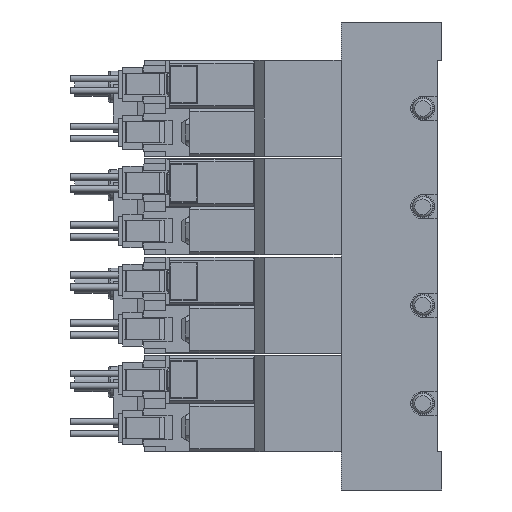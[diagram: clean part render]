
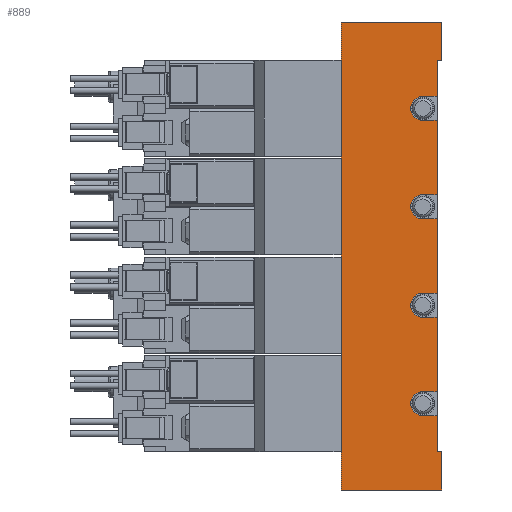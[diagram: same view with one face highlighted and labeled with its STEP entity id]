
A CAD part, left-side view. The second image highlights one B-rep face of the part: STEP entity #889.
In plain terms, the highlighted planar face has unit normal (-1, 0, 0) as drawn and (1, 0, 0) by its records, which use the part's own axes.
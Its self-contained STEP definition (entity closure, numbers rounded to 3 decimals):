
#889=ADVANCED_FACE('',(#1938),#1939,.F.);
#1938=FACE_OUTER_BOUND('',#3037,.T.);
#1939=PLANE('',#3038);
#3037=EDGE_LOOP('',(#6727,#6728,#6729,#6730,#6731,#6732,#6733,#6734,#6735,#6736,#6737,#6738,#6739,#6740,#6741,#6742,#6743,#6744,#6745,#6746,#6747,#6748,#6749,#6750));
#3038=AXIS2_PLACEMENT_3D('',#6751,#6752,#6753);
#6727=ORIENTED_EDGE('',*,*,#8018,.T.);
#6728=ORIENTED_EDGE('',*,*,#8051,.T.);
#6729=ORIENTED_EDGE('',*,*,#8057,.F.);
#6730=ORIENTED_EDGE('',*,*,#8096,.F.);
#6731=ORIENTED_EDGE('',*,*,#8097,.T.);
#6732=ORIENTED_EDGE('',*,*,#8098,.T.);
#6733=ORIENTED_EDGE('',*,*,#8008,.T.);
#6734=ORIENTED_EDGE('',*,*,#8099,.F.);
#6735=ORIENTED_EDGE('',*,*,#8088,.F.);
#6736=ORIENTED_EDGE('',*,*,#8073,.F.);
#6737=ORIENTED_EDGE('',*,*,#8004,.T.);
#6738=ORIENTED_EDGE('',*,*,#8082,.F.);
#6739=ORIENTED_EDGE('',*,*,#8093,.F.);
#6740=ORIENTED_EDGE('',*,*,#8100,.F.);
#6741=ORIENTED_EDGE('',*,*,#8000,.T.);
#6742=ORIENTED_EDGE('',*,*,#7970,.F.);
#6743=ORIENTED_EDGE('',*,*,#8101,.F.);
#6744=ORIENTED_EDGE('',*,*,#8102,.F.);
#6745=ORIENTED_EDGE('',*,*,#7997,.T.);
#6746=ORIENTED_EDGE('',*,*,#8036,.F.);
#6747=ORIENTED_EDGE('',*,*,#8103,.F.);
#6748=ORIENTED_EDGE('',*,*,#8032,.F.);
#6749=ORIENTED_EDGE('',*,*,#7993,.T.);
#6750=ORIENTED_EDGE('',*,*,#7990,.T.);
#6751=CARTESIAN_POINT('',(17.5,1.0,48.75));
#6752=DIRECTION('',(-1.0,0.0,0.0));
#6753=DIRECTION('',(0.0,0.0,1.0));
#7970=EDGE_CURVE('',#9855,#9856,#9857,.T.);
#7990=EDGE_CURVE('',#9887,#9893,#9895,.T.);
#7993=EDGE_CURVE('',#9900,#9887,#9901,.T.);
#7997=EDGE_CURVE('',#9908,#9906,#9909,.T.);
#8000=EDGE_CURVE('',#9913,#9856,#9914,.T.);
#8004=EDGE_CURVE('',#9921,#9919,#9922,.T.);
#8008=EDGE_CURVE('',#9929,#9927,#9930,.T.);
#8018=EDGE_CURVE('',#9893,#9945,#9946,.T.);
#8032=EDGE_CURVE('',#9900,#9971,#9972,.T.);
#8036=EDGE_CURVE('',#9978,#9906,#9979,.T.);
#8051=EDGE_CURVE('',#9945,#10004,#10005,.T.);
#8057=EDGE_CURVE('',#10012,#10004,#10014,.T.);
#8073=EDGE_CURVE('',#9921,#10043,#10044,.T.);
#8082=EDGE_CURVE('',#10058,#9919,#10059,.T.);
#8088=EDGE_CURVE('',#10043,#10065,#10066,.T.);
#8093=EDGE_CURVE('',#10072,#10058,#10074,.T.);
#8096=EDGE_CURVE('',#10078,#10012,#10079,.T.);
#8097=EDGE_CURVE('',#10078,#10080,#10081,.T.);
#8098=EDGE_CURVE('',#10080,#9929,#10082,.T.);
#8099=EDGE_CURVE('',#10065,#9927,#10083,.T.);
#8100=EDGE_CURVE('',#9913,#10072,#10084,.T.);
#8101=EDGE_CURVE('',#10085,#9855,#10086,.T.);
#8102=EDGE_CURVE('',#9908,#10085,#10087,.T.);
#8103=EDGE_CURVE('',#9971,#9978,#10088,.T.);
#9855=VERTEX_POINT('',#12941);
#9856=VERTEX_POINT('',#12942);
#9857=LINE('',#12943,#12944);
#9887=VERTEX_POINT('',#12978);
#9893=VERTEX_POINT('',#12987);
#9895=LINE('',#12990,#12991);
#9900=VERTEX_POINT('',#12996);
#9901=LINE('',#12997,#12998);
#9906=VERTEX_POINT('',#13005);
#9908=VERTEX_POINT('',#13008);
#9909=LINE('',#13009,#13010);
#9913=VERTEX_POINT('',#13016);
#9914=LINE('',#13017,#13018);
#9919=VERTEX_POINT('',#13025);
#9921=VERTEX_POINT('',#13028);
#9922=LINE('',#13029,#13030);
#9927=VERTEX_POINT('',#13037);
#9929=VERTEX_POINT('',#13040);
#9930=LINE('',#13041,#13042);
#9945=VERTEX_POINT('',#13060);
#9946=LINE('',#13061,#13062);
#9971=VERTEX_POINT('',#13091);
#9972=LINE('',#13092,#13093);
#9978=VERTEX_POINT('',#13102);
#9979=LINE('',#13103,#13104);
#10004=VERTEX_POINT('',#13134);
#10005=LINE('',#13135,#13136);
#10012=VERTEX_POINT('',#13147);
#10014=LINE('',#13150,#13151);
#10043=VERTEX_POINT('',#13186);
#10044=LINE('',#13187,#13188);
#10058=VERTEX_POINT('',#13336);
#10059=LINE('',#13337,#13338);
#10065=VERTEX_POINT('',#13346);
#10066=CIRCLE('',#13347,2.5);
#10072=VERTEX_POINT('',#13354);
#10074=CIRCLE('',#13357,2.5);
#10078=VERTEX_POINT('',#13362);
#10079=LINE('',#13363,#13364);
#10080=VERTEX_POINT('',#13365);
#10081=LINE('',#13366,#13367);
#10082=LINE('',#13368,#13369);
#10083=LINE('',#13370,#13371);
#10084=LINE('',#13372,#13373);
#10085=VERTEX_POINT('',#13374);
#10086=CIRCLE('',#13375,2.5);
#10087=LINE('',#13376,#13377);
#10088=CIRCLE('',#13378,2.5);
#12941=CARTESIAN_POINT('',(17.5,4.0,-7.75));
#12942=CARTESIAN_POINT('',(17.5,1.0,-7.75));
#12943=CARTESIAN_POINT('',(17.5,1.0,-7.75));
#12944=VECTOR('',#14693,1.0);
#12978=CARTESIAN_POINT('',(17.5,1.0,-40.75));
#12987=CARTESIAN_POINT('',(17.5,0.0,-40.75));
#12990=CARTESIAN_POINT('',(17.5,4.0,-40.75));
#12991=VECTOR('',#14735,1.0);
#12996=CARTESIAN_POINT('',(17.5,1.0,-33.25));
#12997=CARTESIAN_POINT('',(17.5,1.0,48.75));
#12998=VECTOR('',#14742,1.0);
#13005=CARTESIAN_POINT('',(17.5,1.0,-28.25));
#13008=CARTESIAN_POINT('',(17.5,1.0,-12.75));
#13009=CARTESIAN_POINT('',(17.5,1.0,48.75));
#13010=VECTOR('',#14746,1.0);
#13016=CARTESIAN_POINT('',(17.5,1.0,7.75));
#13017=CARTESIAN_POINT('',(17.5,1.0,48.75));
#13018=VECTOR('',#14749,1.0);
#13025=CARTESIAN_POINT('',(17.5,1.0,12.75));
#13028=CARTESIAN_POINT('',(17.5,1.0,28.25));
#13029=CARTESIAN_POINT('',(17.5,1.0,48.75));
#13030=VECTOR('',#14753,1.0);
#13037=CARTESIAN_POINT('',(17.5,1.0,33.25));
#13040=CARTESIAN_POINT('',(17.5,1.0,40.75));
#13041=CARTESIAN_POINT('',(17.5,1.0,48.75));
#13042=VECTOR('',#14757,1.0);
#13060=CARTESIAN_POINT('',(17.5,0.0,-48.75));
#13061=CARTESIAN_POINT('',(17.5,0.0,-40.75));
#13062=VECTOR('',#14776,1.0);
#13091=CARTESIAN_POINT('',(17.5,4.0,-33.25));
#13092=CARTESIAN_POINT('',(17.5,1.0,-33.25));
#13093=VECTOR('',#14808,1.0);
#13102=CARTESIAN_POINT('',(17.5,4.0,-28.25));
#13103=CARTESIAN_POINT('',(17.5,1.0,-28.25));
#13104=VECTOR('',#14812,1.0);
#13134=CARTESIAN_POINT('',(17.5,21.0,-48.75));
#13135=CARTESIAN_POINT('',(17.5,1.0,-48.75));
#13136=VECTOR('',#14845,1.0);
#13147=CARTESIAN_POINT('',(17.5,21.0,48.75));
#13150=CARTESIAN_POINT('',(17.5,21.0,48.75));
#13151=VECTOR('',#14851,1.0);
#13186=CARTESIAN_POINT('',(17.5,4.0,28.25));
#13187=CARTESIAN_POINT('',(17.5,1.0,28.25));
#13188=VECTOR('',#14885,1.0);
#13336=CARTESIAN_POINT('',(17.5,4.0,12.75));
#13337=CARTESIAN_POINT('',(17.5,1.0,12.75));
#13338=VECTOR('',#14897,1.0);
#13346=CARTESIAN_POINT('',(17.5,4.0,33.25));
#13347=AXIS2_PLACEMENT_3D('',#14906,#14907,#14908);
#13354=CARTESIAN_POINT('',(17.5,4.0,7.75));
#13357=AXIS2_PLACEMENT_3D('',#14917,#14918,#14919);
#13362=CARTESIAN_POINT('',(17.5,0.0,48.75));
#13363=CARTESIAN_POINT('',(17.5,1.0,48.75));
#13364=VECTOR('',#14924,1.0);
#13365=CARTESIAN_POINT('',(17.5,0.0,40.75));
#13366=CARTESIAN_POINT('',(17.5,0.0,48.75));
#13367=VECTOR('',#14925,1.0);
#13368=CARTESIAN_POINT('',(17.5,0.0,40.75));
#13369=VECTOR('',#14926,1.0);
#13370=CARTESIAN_POINT('',(17.5,1.0,33.25));
#13371=VECTOR('',#14927,1.0);
#13372=CARTESIAN_POINT('',(17.5,1.0,7.75));
#13373=VECTOR('',#14928,1.0);
#13374=CARTESIAN_POINT('',(17.5,4.0,-12.75));
#13375=AXIS2_PLACEMENT_3D('',#14929,#14930,#14931);
#13376=CARTESIAN_POINT('',(17.5,1.0,-12.75));
#13377=VECTOR('',#14932,1.0);
#13378=AXIS2_PLACEMENT_3D('',#14933,#14934,#14935);
#14693=DIRECTION('',(0.0,-1.0,0.0));
#14735=DIRECTION('',(0.0,-1.0,0.0));
#14742=DIRECTION('',(0.0,0.0,-1.0));
#14746=DIRECTION('',(0.0,0.0,-1.0));
#14749=DIRECTION('',(0.0,0.0,-1.0));
#14753=DIRECTION('',(0.0,0.0,-1.0));
#14757=DIRECTION('',(0.0,0.0,-1.0));
#14776=DIRECTION('',(0.0,0.0,-1.0));
#14808=DIRECTION('',(0.0,1.0,0.0));
#14812=DIRECTION('',(0.0,-1.0,0.0));
#14845=DIRECTION('',(0.0,1.0,0.0));
#14851=DIRECTION('',(0.0,0.0,-1.0));
#14885=DIRECTION('',(0.0,1.0,0.0));
#14897=DIRECTION('',(0.0,-1.0,0.0));
#14906=CARTESIAN_POINT('',(17.5,4.0,30.75));
#14907=DIRECTION('',(1.0,0.0,-0.0));
#14908=DIRECTION('',(0.0,0.0,1.0));
#14917=CARTESIAN_POINT('',(17.5,4.0,10.25));
#14918=DIRECTION('',(1.0,0.0,-0.0));
#14919=DIRECTION('',(0.0,0.0,1.0));
#14924=DIRECTION('',(0.0,1.0,0.0));
#14925=DIRECTION('',(0.0,0.0,-1.0));
#14926=DIRECTION('',(0.0,1.0,0.0));
#14927=DIRECTION('',(0.0,-1.0,0.0));
#14928=DIRECTION('',(0.0,1.0,0.0));
#14929=CARTESIAN_POINT('',(17.5,4.0,-10.25));
#14930=DIRECTION('',(1.0,0.0,-0.0));
#14931=DIRECTION('',(0.0,0.0,1.0));
#14932=DIRECTION('',(0.0,1.0,0.0));
#14933=CARTESIAN_POINT('',(17.5,4.0,-30.75));
#14934=DIRECTION('',(1.0,0.0,-0.0));
#14935=DIRECTION('',(0.0,0.0,1.0));
